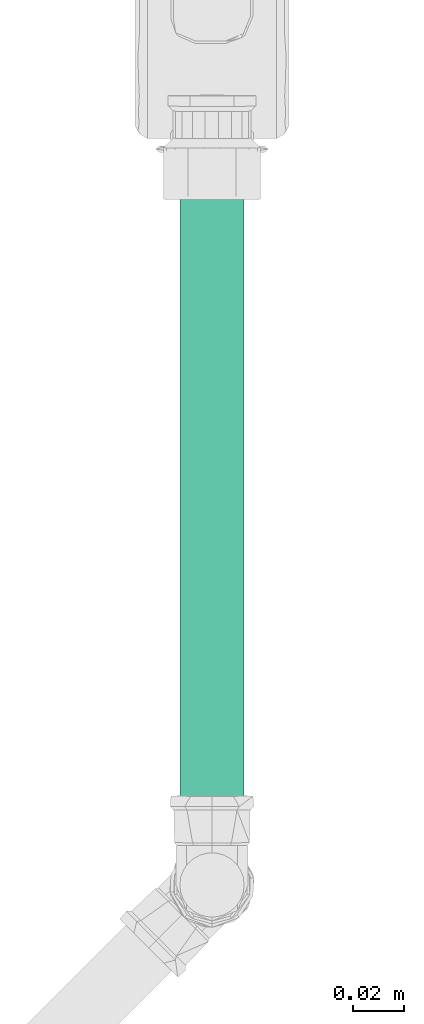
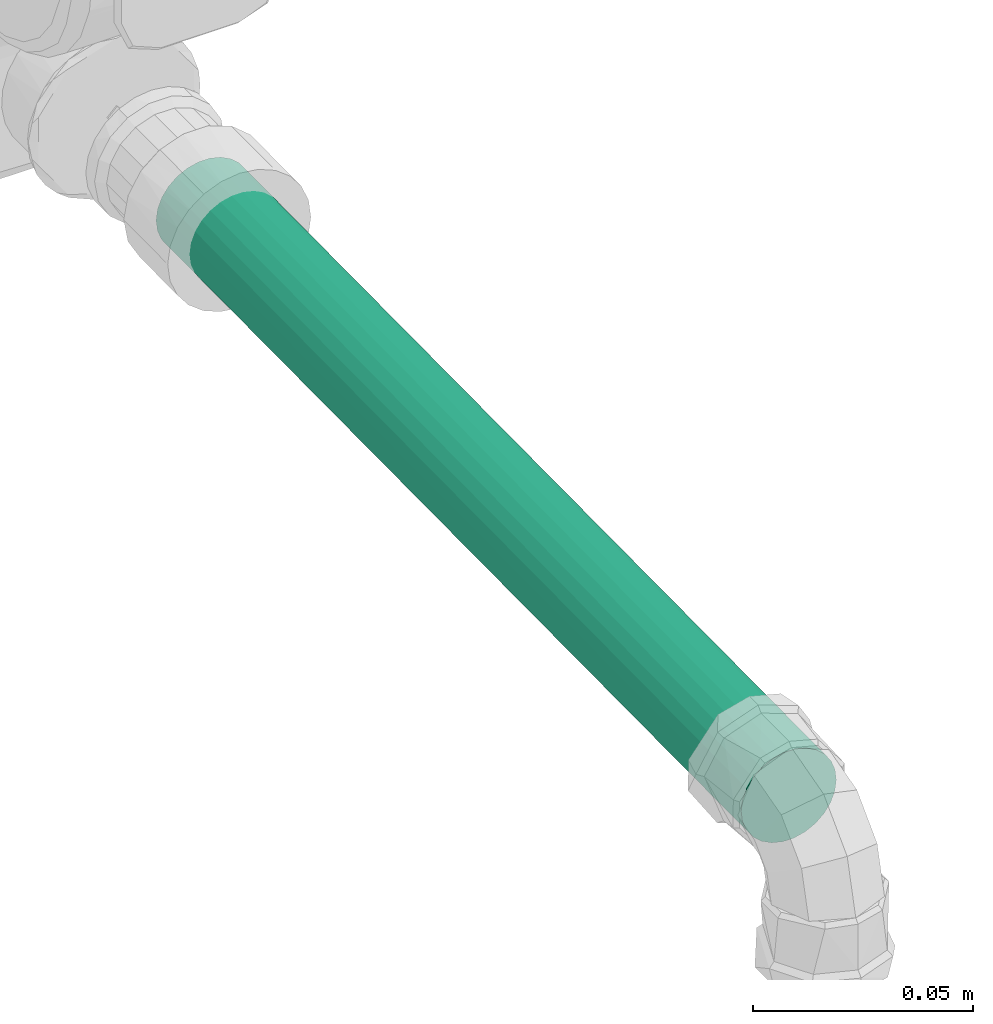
# One storey, part 62 of 589: 1 flow segment.
"""IFC2X3 building model written with IfcOpenShell, lengths in millimetres."""

from ifc_helpers import new_model, entity, si_unit, converted_unit, derived_unit, direction, frame, frame_2d, origin, place, context, subcontext, project, spatial, circle, extrude, type_object, element, save


model = new_model("IFC2X3")

# Units and contexts
model_context = context("Model", 3, precision=0.01, world=origin(), true_north=direction((6.123031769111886e-17, 1.0)))
body_context = subcontext(model_context, "Body", "Model", "MODEL_VIEW")
ifc_project = project(units=[si_unit("LENGTHUNIT", "METRE", prefix="MILLI"), si_unit("AREAUNIT", "SQUARE_METRE"), si_unit("VOLUMEUNIT", "CUBIC_METRE"), converted_unit("PLANEANGLEUNIT", "DEGREE", entity("IfcRatioMeasure", 0.017453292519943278), si_unit("PLANEANGLEUNIT", "RADIAN"), dimensions=[0, 0, 0, 0, 0, 0, 0]), si_unit("MASSUNIT", "GRAM", prefix="KILO"), derived_unit("MASSDENSITYUNIT", [(si_unit("MASSUNIT", "GRAM", prefix="KILO"), 1), (si_unit("LENGTHUNIT", "METRE"), -3)]), derived_unit("IONCONCENTRATIONUNIT", [(si_unit("MASSUNIT", "GRAM", prefix="KILO"), 1), (si_unit("LENGTHUNIT", "METRE"), -3)]), derived_unit("MOMENTOFINERTIAUNIT", [(si_unit("LENGTHUNIT", "METRE"), 4)]), si_unit("TIMEUNIT", "SECOND"), si_unit("FREQUENCYUNIT", "HERTZ"), si_unit("THERMODYNAMICTEMPERATUREUNIT", "DEGREE_CELSIUS"), derived_unit("THERMALTRANSMITTANCEUNIT", [(si_unit("MASSUNIT", "GRAM", prefix="KILO"), 1), (si_unit("THERMODYNAMICTEMPERATUREUNIT", "KELVIN"), -1), (si_unit("TIMEUNIT", "SECOND"), -3)]), derived_unit("THERMALCONDUCTANCEUNIT", [(si_unit("MASSUNIT", "GRAM", prefix="KILO"), 1), (si_unit("THERMODYNAMICTEMPERATUREUNIT", "KELVIN"), -1), (si_unit("TIMEUNIT", "SECOND"), -3), (si_unit("LENGTHUNIT", "METRE"), 1)]), derived_unit("VOLUMETRICFLOWRATEUNIT", [(si_unit("LENGTHUNIT", "METRE"), 3), (si_unit("TIMEUNIT", "SECOND"), -1)]), derived_unit("MASSFLOWRATEUNIT", [(si_unit("MASSUNIT", "GRAM", prefix="KILO"), 1), (si_unit("TIMEUNIT", "SECOND"), -1)]), derived_unit("ROTATIONALFREQUENCYUNIT", [(si_unit("TIMEUNIT", "SECOND"), -1)]), si_unit("ELECTRICCURRENTUNIT", "AMPERE"), si_unit("ELECTRICVOLTAGEUNIT", "VOLT"), si_unit("POWERUNIT", "WATT"), si_unit("FORCEUNIT", "NEWTON", prefix="KILO"), si_unit("ILLUMINANCEUNIT", "LUX"), si_unit("LUMINOUSFLUXUNIT", "LUMEN"), si_unit("LUMINOUSINTENSITYUNIT", "CANDELA"), derived_unit("USERDEFINED", [(si_unit("MASSUNIT", "GRAM", prefix="KILO"), -1), (si_unit("LENGTHUNIT", "METRE"), -2), (si_unit("TIMEUNIT", "SECOND"), 3), (si_unit("LUMINOUSFLUXUNIT", "LUMEN"), 1)]), derived_unit("USERDEFINED", [(si_unit("MASSUNIT", "GRAM", prefix="KILO"), 1), (si_unit("TIMEUNIT", "SECOND"), -3), (si_unit("LENGTHUNIT", "METRE"), 3), (si_unit("ELECTRICCURRENTUNIT", "AMPERE"), -2)]), derived_unit("SOUNDPOWERUNIT", [(si_unit("MASSUNIT", "GRAM", prefix="KILO"), 1), (si_unit("TIMEUNIT", "SECOND"), -3), (si_unit("LENGTHUNIT", "METRE"), 2)]), derived_unit("SOUNDPRESSUREUNIT", [(si_unit("MASSUNIT", "GRAM", prefix="KILO"), 1), (si_unit("LENGTHUNIT", "METRE"), -1), (si_unit("TIMEUNIT", "SECOND"), -2)]), derived_unit("LINEARVELOCITYUNIT", [(si_unit("LENGTHUNIT", "METRE"), 1), (si_unit("TIMEUNIT", "SECOND"), -1)]), si_unit("PRESSUREUNIT", "PASCAL"), derived_unit("USERDEFINED", [(si_unit("MASSUNIT", "GRAM", prefix="KILO"), 1), (si_unit("LENGTHUNIT", "METRE"), -2), (si_unit("TIMEUNIT", "SECOND"), -2)]), derived_unit("LINEARFORCEUNIT", [(si_unit("MASSUNIT", "GRAM", prefix="KILO"), 1), (si_unit("TIMEUNIT", "SECOND"), -2)]), derived_unit("PLANARFORCEUNIT", [(si_unit("MASSUNIT", "GRAM", prefix="KILO"), 1), (si_unit("LENGTHUNIT", "METRE"), -1), (si_unit("TIMEUNIT", "SECOND"), -2)]), derived_unit("SPECIFICHEATCAPACITYUNIT", [(si_unit("THERMODYNAMICTEMPERATUREUNIT", "KELVIN"), -1), (si_unit("LENGTHUNIT", "METRE"), 2), (si_unit("TIMEUNIT", "SECOND"), -2)]), derived_unit("HEATINGVALUEUNIT", [(si_unit("LENGTHUNIT", "METRE"), 2), (si_unit("TIMEUNIT", "SECOND"), -2)]), derived_unit("VAPORPERMEABILITYUNIT", [(si_unit("LENGTHUNIT", "METRE"), -1), (si_unit("TIMEUNIT", "SECOND"), 1)]), derived_unit("DYNAMICVISCOSITYUNIT", [(si_unit("MASSUNIT", "GRAM", prefix="KILO"), 1), (si_unit("TIMEUNIT", "SECOND"), -1), (si_unit("LENGTHUNIT", "METRE"), -1)]), derived_unit("THERMALEXPANSIONCOEFFICIENTUNIT", [(si_unit("THERMODYNAMICTEMPERATUREUNIT", "KELVIN"), -1)]), derived_unit("MODULUSOFELASTICITYUNIT", [(si_unit("MASSUNIT", "GRAM", prefix="KILO"), 1), (si_unit("LENGTHUNIT", "METRE"), -1), (si_unit("TIMEUNIT", "SECOND"), -2)]), derived_unit("ISOTHERMALMOISTURECAPACITYUNIT", [(si_unit("LENGTHUNIT", "METRE"), 3), (si_unit("MASSUNIT", "GRAM", prefix="KILO"), -1)]), derived_unit("MOISTUREDIFFUSIVITYUNIT", [(si_unit("TIMEUNIT", "SECOND"), -1), (si_unit("LENGTHUNIT", "METRE"), 2)])], contexts=[model_context])

# Site, building, storey
site_placement = place(None, origin())
site = spatial("IfcSite", under=ifc_project, at=site_placement, Name="Default", CompositionType="ELEMENT")
building_placement = place(site_placement, origin())
building = spatial("IfcBuilding", under=site, at=building_placement, CompositionType="ELEMENT")
storey_placement = place(building_placement, frame((0.0, 0.0, 100.0)))
storey = spatial("IfcBuildingStorey", under=building, at=storey_placement, Name="TÉRREO", CompositionType="ELEMENT", Elevation=100.0)

# Flow segment
pipe_segment_type = type_object("IfcPipeSegmentType", Name="Tipos de tubos:PVC Marrom Soldável", PredefinedType="NOTDEFINED")
flow_segment_placement = place(storey_placement, origin())
element("IfcFlowSegment", 1, at=flow_segment_placement, inside=storey, type_object=pipe_segment_type, Name="Tipos de tubos:PVC Marrom Soldável", ObjectType="Tipos de tubos:PVC Marrom Soldável", context=body_context, shape_type="SweptSolid", body=[
    extrude(circle(Radius=12.5, at=frame_2d((0.0, -1.0828129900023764e-14), x_axis=(1.0, 0.0))), frame((3151.9537703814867, -7625.775034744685, 2576.538742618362), z_axis=(0.0, 0.9999500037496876, 0.009999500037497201), x_axis=(-1.0, 0.0, 0.0)), (0.0, 0.0, 1.0), 266.0970462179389),
])

save(model, "model.ifc")
